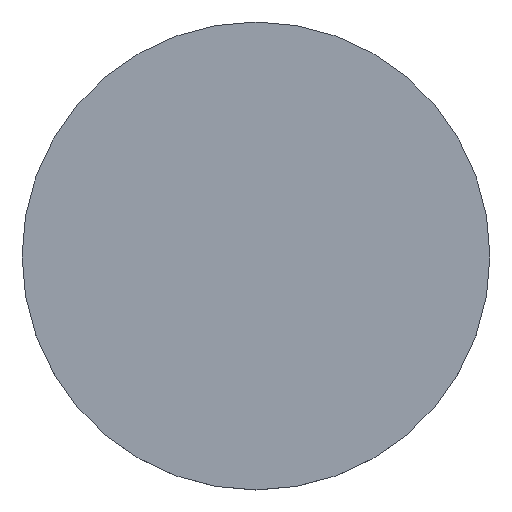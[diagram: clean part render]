
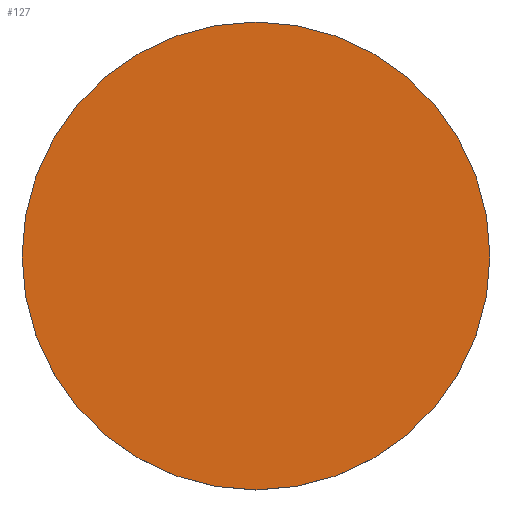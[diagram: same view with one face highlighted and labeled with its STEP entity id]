
A CAD part, top view. The second image highlights one B-rep face of the part: STEP entity #127.
In plain terms, the highlighted planar face has unit normal (0, 0, 1).
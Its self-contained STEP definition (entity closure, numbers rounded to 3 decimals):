
#42 = VERTEX_POINT('',#43);
#43 = CARTESIAN_POINT('',(150.,0.,18.));
#50 = CYLINDRICAL_SURFACE('',#51,150.);
#51 = AXIS2_PLACEMENT_3D('',#52,#53,#54);
#52 = CARTESIAN_POINT('',(0.,0.,0.));
#53 = DIRECTION('',(-0.,-0.,-1.));
#54 = DIRECTION('',(1.,0.,0.));
#69 = EDGE_CURVE('',#42,#42,#70,.T.);
#70 = SURFACE_CURVE('',#71,(#76,#83),.PCURVE_S1.);
#71 = CIRCLE('',#72,150.);
#72 = AXIS2_PLACEMENT_3D('',#73,#74,#75);
#73 = CARTESIAN_POINT('',(0.,0.,18.));
#74 = DIRECTION('',(0.,0.,1.));
#75 = DIRECTION('',(1.,0.,0.));
#76 = PCURVE('',#50,#77);
#77 = DEFINITIONAL_REPRESENTATION('',(#78),#82);
#78 = LINE('',#79,#80);
#79 = CARTESIAN_POINT('',(-0.,-18.));
#80 = VECTOR('',#81,1.);
#81 = DIRECTION('',(-1.,0.));
#82 = ( GEOMETRIC_REPRESENTATION_CONTEXT(2) 
PARAMETRIC_REPRESENTATION_CONTEXT() REPRESENTATION_CONTEXT('2D SPACE',''
  ) );
#83 = PCURVE('',#84,#89);
#84 = PLANE('',#85);
#85 = AXIS2_PLACEMENT_3D('',#86,#87,#88);
#86 = CARTESIAN_POINT('',(0.,0.,18.));
#87 = DIRECTION('',(0.,0.,1.));
#88 = DIRECTION('',(1.,0.,-0.));
#89 = DEFINITIONAL_REPRESENTATION('',(#90),#94);
#90 = CIRCLE('',#91,150.);
#91 = AXIS2_PLACEMENT_2D('',#92,#93);
#92 = CARTESIAN_POINT('',(0.,0.));
#93 = DIRECTION('',(1.,0.));
#94 = ( GEOMETRIC_REPRESENTATION_CONTEXT(2) 
PARAMETRIC_REPRESENTATION_CONTEXT() REPRESENTATION_CONTEXT('2D SPACE',''
  ) );
#127 = ADVANCED_FACE('',(#128),#84,.T.);
#128 = FACE_BOUND('',#129,.T.);
#129 = EDGE_LOOP('',(#130));
#130 = ORIENTED_EDGE('',*,*,#69,.T.);
